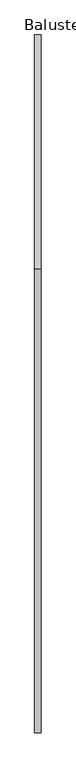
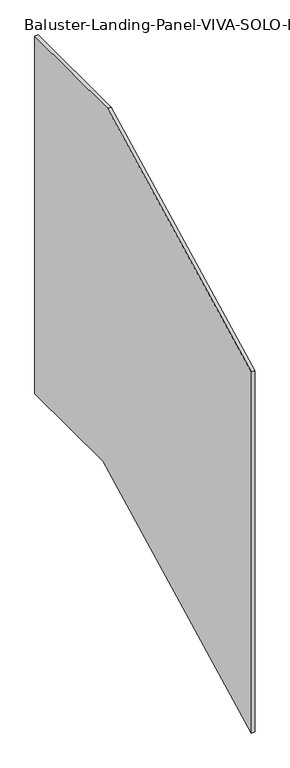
"""IFC4 building model written with IfcOpenShell, lengths in millimetres: railing geometry, Baluster-Landing-Panel-VIVA-SOLO-Lower : Standard_Glass."""

from ifc_helpers import new_model, si_unit, frame, origin, place, context, project, spatial, polyline, outline, extrude, source, transform, mapped, element, save


def baluster_landing_panel_viva_solo_lower_standard_glass_1d528cd6(model_context):
    return source(origin(), model_context, "Body", "SweptSolid", [
        extrude(outline(polyline([(680.085, 1112.52), (1025.525, 1112.52), (1025.525, 76.2), (700.8588262, 76.2), (-5.0108793, -283.148271), (-5.0108793, 763.7473897), (680.085, 1112.52)])), frame((33.3375, 0.0, 0.0), z_axis=(1.0, 0.0, 0.0), x_axis=(0.0, 1.0, 0.0)), (0.0, 0.0, 1.0), 9.525),
    ])


if __name__ == "__main__":
    model = new_model("IFC4")
    model_context = context("Model", 3, world=origin())
    ifc_project = project(units=[si_unit("LENGTHUNIT", "METRE", prefix="MILLI")], contexts=[model_context])
    site = spatial("IfcSite", under=ifc_project)
    building = spatial("IfcBuilding", under=site)
    placement = place(None, origin())
    baluster_landing_panel_viva_solo_lower_standard_glass_shape = baluster_landing_panel_viva_solo_lower_standard_glass_1d528cd6(model_context)
    element("IfcRailing", 1, ObjectType="Baluster-Landing-Panel-VIVA-SOLO-Lower : Standard_Glass", at=placement, inside=building, context=model_context, shape_type="MappedRepresentation", body=[
        mapped(baluster_landing_panel_viva_solo_lower_standard_glass_shape, transform((0.0, 0.0, 0.0), x_axis=(1.0, 0.0, 0.0), y_axis=(0.0, 1.0, 0.0), z_axis=(0.0, 0.0, 1.0))),
    ])
    save(model, "model.ifc")
